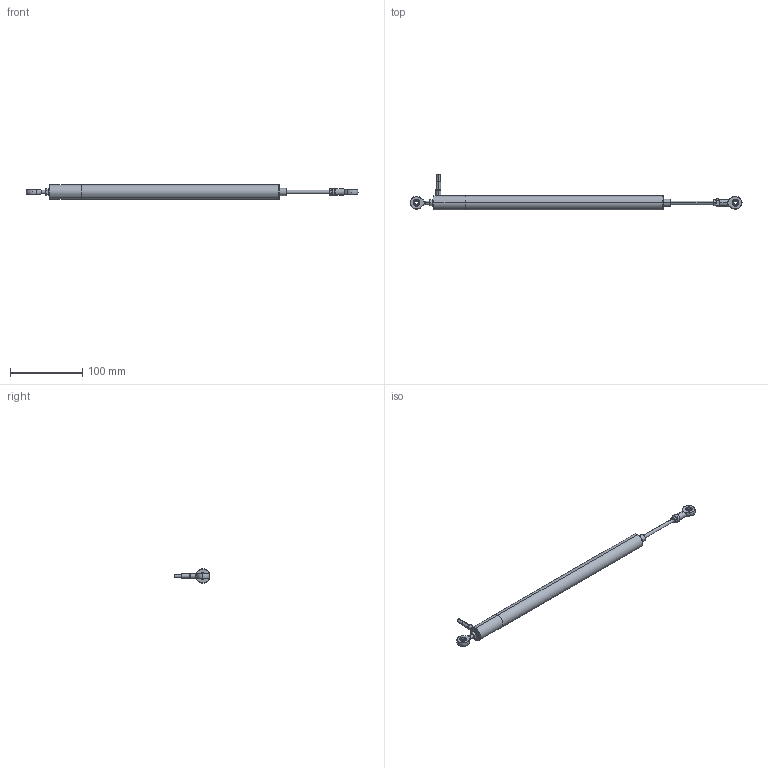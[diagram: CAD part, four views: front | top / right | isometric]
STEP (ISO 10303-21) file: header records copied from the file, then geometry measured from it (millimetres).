
FILE_DESCRIPTION (( 'STEP AP214' ), '1' );
FILE_NAME ('Wegsensor LVDT-ISDG-100-K.STEP', '2018-11-12T13:31:53', ( '' ), ( '' ), 'SwSTEP 2.0', 'SolidWorks 2015', '' );
FILE_SCHEMA (( 'AUTOMOTIVE_DESIGN' ));
Length unit declared in the file: millimetre
Products named in the file (1): Wegsensor LVDT-ISDG-100-K
Bounding box: 461 x 49.95 x 19.9 mm (x, y, z)
Volume: 107094.6 mm3; surface area: 27808.9 mm2
Topology: 7 solids, 7 shells, 134 faces, 290 edges, 176 vertices
Faces by surface type: plane 42, cone 42, cylinder 34, sphere 12, torus 4
Entity records: 4135 total; most frequent: CARTESIAN_POINT 969, DIRECTION 628, ORIENTED_EDGE 556, AXIS2_PLACEMENT_3D 281, EDGE_CURVE 278, VERTEX_POINT 168, EDGE_LOOP 150, CIRCLE 146
